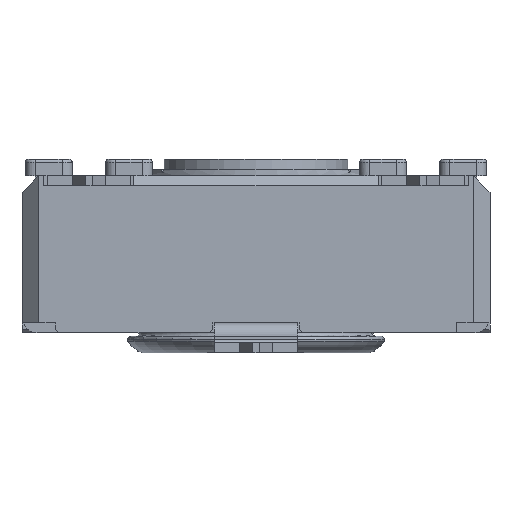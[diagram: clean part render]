
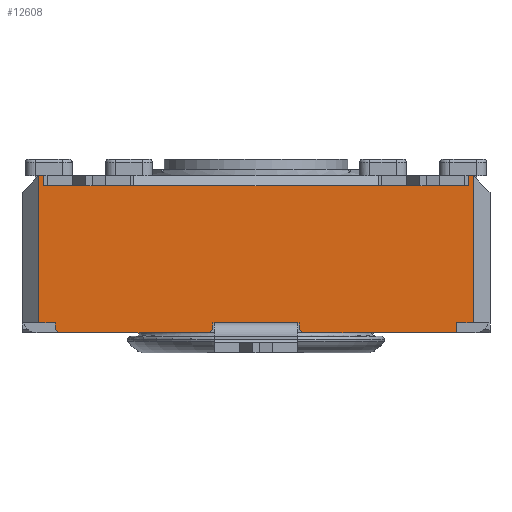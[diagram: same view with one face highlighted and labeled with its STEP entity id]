
A CAD part, front view. The second image highlights one B-rep face of the part: STEP entity #12608.
In plain terms, the highlighted planar face has unit normal (0, -1, 0).
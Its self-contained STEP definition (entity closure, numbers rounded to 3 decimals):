
#656=FACE_OUTER_BOUND('',#1327,.T.);
#1327=EDGE_LOOP('',(#8391,#8392,#8393,#8394,#8395,#8396,#8397,#8398,#8399,
#8400,#8401,#8402,#8403,#8404,#8405,#8406,#8407,#8408,#8409,#8410,#8411,
#8412,#8413,#8414,#8415,#8416,#8417));
#2059=LINE('',#18030,#3552);
#2071=LINE('',#18062,#3564);
#2076=LINE('',#18072,#3569);
#2134=LINE('',#18191,#3627);
#2139=LINE('',#18200,#3632);
#2165=LINE('',#18264,#3658);
#2166=LINE('',#18266,#3659);
#2167=LINE('',#18268,#3660);
#2168=LINE('',#18269,#3661);
#2169=LINE('',#18271,#3662);
#2170=LINE('',#18273,#3663);
#2171=LINE('',#18275,#3664);
#2172=LINE('',#18277,#3665);
#2173=LINE('',#18278,#3666);
#2174=LINE('',#18280,#3667);
#2175=LINE('',#18282,#3668);
#2176=LINE('',#18284,#3669);
#2177=LINE('',#18286,#3670);
#2178=LINE('',#18288,#3671);
#2179=LINE('',#18290,#3672);
#2180=LINE('',#18292,#3673);
#2181=LINE('',#18294,#3674);
#2182=LINE('',#18296,#3675);
#2183=LINE('',#18297,#3676);
#2184=LINE('',#18299,#3677);
#2185=LINE('',#18301,#3678);
#2186=LINE('',#18302,#3679);
#3552=VECTOR('',#14464,10.);
#3564=VECTOR('',#14500,10.);
#3569=VECTOR('',#14505,10.);
#3627=VECTOR('',#14577,10.);
#3632=VECTOR('',#14586,10.);
#3658=VECTOR('',#14634,10.);
#3659=VECTOR('',#14635,10.);
#3660=VECTOR('',#14636,10.);
#3661=VECTOR('',#14637,10.);
#3662=VECTOR('',#14638,10.);
#3663=VECTOR('',#14639,10.);
#3664=VECTOR('',#14640,10.);
#3665=VECTOR('',#14641,10.);
#3666=VECTOR('',#14642,10.);
#3667=VECTOR('',#14643,10.);
#3668=VECTOR('',#14644,10.);
#3669=VECTOR('',#14645,10.);
#3670=VECTOR('',#14646,10.);
#3671=VECTOR('',#14647,10.);
#3672=VECTOR('',#14648,10.);
#3673=VECTOR('',#14649,10.);
#3674=VECTOR('',#14650,10.);
#3675=VECTOR('',#14651,10.);
#3676=VECTOR('',#14652,10.);
#3677=VECTOR('',#14653,10.);
#3678=VECTOR('',#14654,10.);
#3679=VECTOR('',#14655,10.);
#5023=VERTEX_POINT('',#18009);
#5031=VERTEX_POINT('',#18029);
#5039=VERTEX_POINT('',#18061);
#5043=VERTEX_POINT('',#18069);
#5044=VERTEX_POINT('',#18071);
#5097=VERTEX_POINT('',#18188);
#5098=VERTEX_POINT('',#18190);
#5099=VERTEX_POINT('',#18197);
#5100=VERTEX_POINT('',#18199);
#5127=VERTEX_POINT('',#18263);
#5128=VERTEX_POINT('',#18265);
#5129=VERTEX_POINT('',#18267);
#5130=VERTEX_POINT('',#18270);
#5131=VERTEX_POINT('',#18272);
#5132=VERTEX_POINT('',#18274);
#5133=VERTEX_POINT('',#18276);
#5134=VERTEX_POINT('',#18279);
#5135=VERTEX_POINT('',#18281);
#5136=VERTEX_POINT('',#18283);
#5137=VERTEX_POINT('',#18285);
#5138=VERTEX_POINT('',#18287);
#5139=VERTEX_POINT('',#18289);
#5140=VERTEX_POINT('',#18291);
#5141=VERTEX_POINT('',#18293);
#5142=VERTEX_POINT('',#18295);
#5143=VERTEX_POINT('',#18298);
#5144=VERTEX_POINT('',#18300);
#6279=EDGE_CURVE('',#5023,#5031,#2059,.T.);
#6295=EDGE_CURVE('',#5039,#5023,#2071,.T.);
#6300=EDGE_CURVE('',#5044,#5043,#2076,.T.);
#6360=EDGE_CURVE('',#5098,#5097,#2134,.T.);
#6365=EDGE_CURVE('',#5100,#5099,#2139,.T.);
#6397=EDGE_CURVE('',#5097,#5127,#2165,.T.);
#6398=EDGE_CURVE('',#5127,#5128,#2166,.T.);
#6399=EDGE_CURVE('',#5128,#5129,#2167,.T.);
#6400=EDGE_CURVE('',#5044,#5129,#2168,.T.);
#6401=EDGE_CURVE('',#5043,#5130,#2169,.T.);
#6402=EDGE_CURVE('',#5131,#5130,#2170,.T.);
#6403=EDGE_CURVE('',#5131,#5132,#2171,.T.);
#6404=EDGE_CURVE('',#5133,#5132,#2172,.T.);
#6405=EDGE_CURVE('',#5039,#5133,#2173,.T.);
#6406=EDGE_CURVE('',#5031,#5134,#2174,.T.);
#6407=EDGE_CURVE('',#5134,#5135,#2175,.T.);
#6408=EDGE_CURVE('',#5136,#5135,#2176,.T.);
#6409=EDGE_CURVE('',#5136,#5137,#2177,.T.);
#6410=EDGE_CURVE('',#5137,#5138,#2178,.T.);
#6411=EDGE_CURVE('',#5138,#5139,#2179,.T.);
#6412=EDGE_CURVE('',#5140,#5139,#2180,.T.);
#6413=EDGE_CURVE('',#5140,#5141,#2181,.T.);
#6414=EDGE_CURVE('',#5141,#5142,#2182,.T.);
#6415=EDGE_CURVE('',#5142,#5100,#2183,.T.);
#6416=EDGE_CURVE('',#5099,#5143,#2184,.T.);
#6417=EDGE_CURVE('',#5144,#5143,#2185,.T.);
#6418=EDGE_CURVE('',#5144,#5098,#2186,.T.);
#8391=ORIENTED_EDGE('',*,*,#6360,.T.);
#8392=ORIENTED_EDGE('',*,*,#6397,.T.);
#8393=ORIENTED_EDGE('',*,*,#6398,.T.);
#8394=ORIENTED_EDGE('',*,*,#6399,.T.);
#8395=ORIENTED_EDGE('',*,*,#6400,.F.);
#8396=ORIENTED_EDGE('',*,*,#6300,.T.);
#8397=ORIENTED_EDGE('',*,*,#6401,.T.);
#8398=ORIENTED_EDGE('',*,*,#6402,.F.);
#8399=ORIENTED_EDGE('',*,*,#6403,.T.);
#8400=ORIENTED_EDGE('',*,*,#6404,.F.);
#8401=ORIENTED_EDGE('',*,*,#6405,.F.);
#8402=ORIENTED_EDGE('',*,*,#6295,.T.);
#8403=ORIENTED_EDGE('',*,*,#6279,.T.);
#8404=ORIENTED_EDGE('',*,*,#6406,.T.);
#8405=ORIENTED_EDGE('',*,*,#6407,.T.);
#8406=ORIENTED_EDGE('',*,*,#6408,.F.);
#8407=ORIENTED_EDGE('',*,*,#6409,.T.);
#8408=ORIENTED_EDGE('',*,*,#6410,.T.);
#8409=ORIENTED_EDGE('',*,*,#6411,.T.);
#8410=ORIENTED_EDGE('',*,*,#6412,.F.);
#8411=ORIENTED_EDGE('',*,*,#6413,.T.);
#8412=ORIENTED_EDGE('',*,*,#6414,.T.);
#8413=ORIENTED_EDGE('',*,*,#6415,.T.);
#8414=ORIENTED_EDGE('',*,*,#6365,.T.);
#8415=ORIENTED_EDGE('',*,*,#6416,.T.);
#8416=ORIENTED_EDGE('',*,*,#6417,.F.);
#8417=ORIENTED_EDGE('',*,*,#6418,.T.);
#11889=PLANE('',#13325);
#12608=ADVANCED_FACE('',(#656),#11889,.T.);
#13325=AXIS2_PLACEMENT_3D('',#18262,#14632,#14633);
#14464=DIRECTION('',(1.,0.,0.));
#14500=DIRECTION('',(1.,0.,0.));
#14505=DIRECTION('',(1.,0.,0.));
#14577=DIRECTION('',(-1.,0.,0.));
#14586=DIRECTION('',(-1.,0.,0.));
#14632=DIRECTION('center_axis',(0.,-1.,0.));
#14633=DIRECTION('ref_axis',(0.,0.,-1.));
#14634=DIRECTION('',(-1.,0.,0.));
#14635=DIRECTION('',(0.,0.,1.));
#14636=DIRECTION('',(-1.,0.,0.));
#14637=DIRECTION('',(0.,0.,1.));
#14638=DIRECTION('',(0.,0.,-1.));
#14639=DIRECTION('',(-0.707,0.,0.707));
#14640=DIRECTION('',(1.,0.,0.));
#14641=DIRECTION('',(-0.707,0.,-0.707));
#14642=DIRECTION('',(0.,0.,-1.));
#14643=DIRECTION('',(1.,0.,0.));
#14644=DIRECTION('',(0.,0.,-1.));
#14645=DIRECTION('',(-0.707,0.,0.707));
#14646=DIRECTION('',(1.,0.,0.));
#14647=DIRECTION('',(0.,0.,1.));
#14648=DIRECTION('',(1.,0.,0.));
#14649=DIRECTION('',(0.,0.,-1.));
#14650=DIRECTION('',(-1.,0.,0.));
#14651=DIRECTION('',(0.,0.,-1.));
#14652=DIRECTION('',(-1.,0.,0.));
#14653=DIRECTION('',(-1.,0.,0.));
#14654=DIRECTION('',(1.,0.,0.));
#14655=DIRECTION('',(-1.,0.,0.));
#18009=CARTESIAN_POINT('',(-8.717,-9.898,0.));
#18029=CARTESIAN_POINT('',(-6.217,-9.898,0.));
#18030=CARTESIAN_POINT('',(-14.467,-9.898,0.));
#18061=CARTESIAN_POINT('',(-8.767,-9.898,0.));
#18062=CARTESIAN_POINT('',(-14.467,-9.898,0.));
#18069=CARTESIAN_POINT('',(-13.467,-9.898,0.));
#18071=CARTESIAN_POINT('',(-13.967,-9.898,0.));
#18072=CARTESIAN_POINT('',(-7.245,-9.898,0.));
#18188=CARTESIAN_POINT('',(-13.717,-9.898,4.1));
#18190=CARTESIAN_POINT('',(-11.217,-9.898,4.1));
#18191=CARTESIAN_POINT('',(-6.467,-9.898,4.1));
#18197=CARTESIAN_POINT('',(-3.717,-9.898,4.1));
#18199=CARTESIAN_POINT('',(-1.217,-9.898,4.1));
#18200=CARTESIAN_POINT('',(-1.467,-9.898,4.1));
#18262=CARTESIAN_POINT('Origin',(-0.467,-9.898,0.));
#18263=CARTESIAN_POINT('',(-13.817,-9.898,4.1));
#18264=CARTESIAN_POINT('',(-3.944,-9.898,4.1));
#18265=CARTESIAN_POINT('',(-13.817,-9.898,4.4));
#18266=CARTESIAN_POINT('',(-13.817,-9.898,2.2));
#18267=CARTESIAN_POINT('',(-13.967,-9.898,4.4));
#18268=CARTESIAN_POINT('',(-14.467,-9.898,4.4));
#18269=CARTESIAN_POINT('',(-13.967,-9.898,0.));
#18270=CARTESIAN_POINT('',(-13.467,-9.898,-0.2));
#18271=CARTESIAN_POINT('',(-13.467,-9.898,-0.15));
#18272=CARTESIAN_POINT('',(-13.367,-9.898,-0.3));
#18273=CARTESIAN_POINT('',(-10.242,-9.898,-3.425));
#18274=CARTESIAN_POINT('',(-8.867,-9.898,-0.3));
#18275=CARTESIAN_POINT('',(-0.467,-9.898,-0.3));
#18276=CARTESIAN_POINT('',(-8.767,-9.898,-0.2));
#18277=CARTESIAN_POINT('',(-6.667,-9.898,1.9));
#18278=CARTESIAN_POINT('',(-8.767,-9.898,0.));
#18279=CARTESIAN_POINT('',(-6.167,-9.898,0.));
#18280=CARTESIAN_POINT('',(-14.467,-9.898,0.));
#18281=CARTESIAN_POINT('',(-6.167,-9.898,-0.2));
#18282=CARTESIAN_POINT('',(-6.167,-9.898,0.));
#18283=CARTESIAN_POINT('',(-6.067,-9.898,-0.3));
#18284=CARTESIAN_POINT('',(-4.767,-9.898,-1.6));
#18285=CARTESIAN_POINT('',(-1.467,-9.898,-0.3));
#18286=CARTESIAN_POINT('',(-0.467,-9.898,-0.3));
#18287=CARTESIAN_POINT('',(-1.467,-9.898,0.));
#18288=CARTESIAN_POINT('',(-1.467,-9.898,-0.15));
#18289=CARTESIAN_POINT('',(-0.967,-9.898,0.));
#18290=CARTESIAN_POINT('',(-0.646,-9.898,0.));
#18291=CARTESIAN_POINT('',(-0.967,-9.898,4.4));
#18292=CARTESIAN_POINT('',(-0.967,-9.898,0.));
#18293=CARTESIAN_POINT('',(-1.117,-9.898,4.4));
#18294=CARTESIAN_POINT('',(-14.467,-9.898,4.4));
#18295=CARTESIAN_POINT('',(-1.117,-9.898,4.1));
#18296=CARTESIAN_POINT('',(-1.117,-9.898,2.2));
#18297=CARTESIAN_POINT('',(-1.862,-9.898,4.1));
#18298=CARTESIAN_POINT('',(-3.817,-9.898,4.1));
#18299=CARTESIAN_POINT('',(-1.862,-9.898,4.1));
#18300=CARTESIAN_POINT('',(-11.117,-9.898,4.1));
#18301=CARTESIAN_POINT('',(-3.967,-9.898,4.1));
#18302=CARTESIAN_POINT('',(-3.944,-9.898,4.1));
